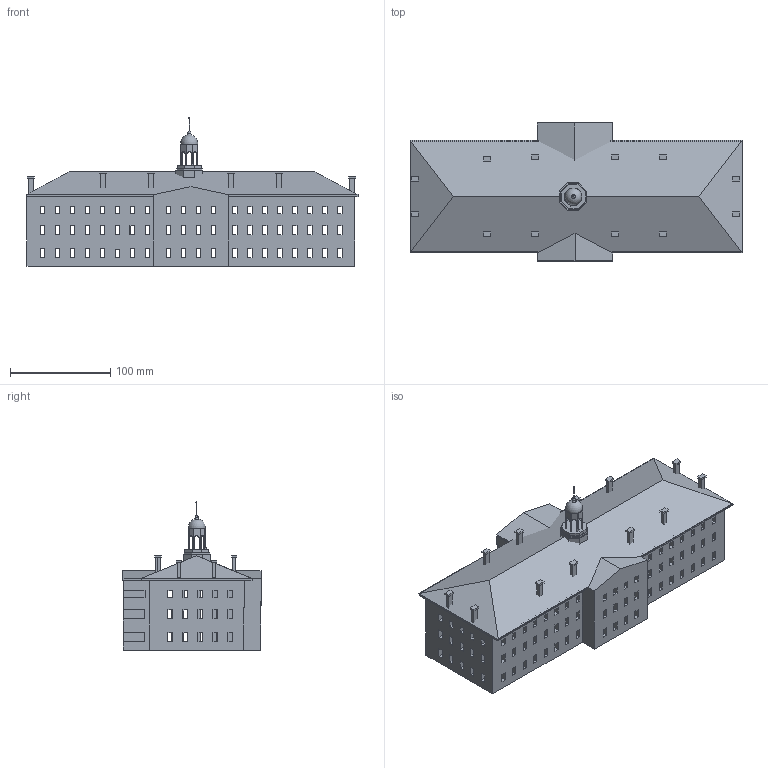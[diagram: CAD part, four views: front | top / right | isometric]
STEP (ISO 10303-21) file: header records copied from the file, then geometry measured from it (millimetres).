
FILE_DESCRIPTION(/* description */ ('Open CASCADE Model'),/* implementation_level */ '2;1');
FILE_NAME(/* name */ 'nassau_hall.step',/* time_stamp */ '2026-04-24T15:27:20-04:00',/* author */ (''),/* organization */ (''),/* preprocessor_version */ 'ST-DEVELOPER v20.1',/* originating_system */ 'Autodesk Translation Framework v15.8.0.0',/* authorisation */ '');
FILE_SCHEMA (('AUTOMOTIVE_DESIGN { 1 0 10303 214 3 1 1 }'));
Length unit declared in the file: millimetre
Products named in the file (3): 2026-02-27-20-08-59-526; 2026-02-27-20-08-59-527; 2026-04-23-23-28-18-943
Assembly tree (2 placements, depth 2):
  2026-02-27-20-08-59-526
    2026-02-27-20-08-59-527
    2026-04-23-23-28-18-943
Bounding box: 332 x 138 x 148.36 mm (x, y, z)
Volume: 820093.1 mm3; surface area: 241947.2 mm2
Topology: 18 solids, 18 shells, 934 faces, 2684 edges, 1785 vertices
Faces by surface type: plane 916, cylinder 10, sphere 5, torus 3
Full cylindrical faces by diameter (mm): 0.559 x1
Entity records: 30718 total; most frequent: CARTESIAN_POINT 5492, ORIENTED_EDGE 5364, DIRECTION 4590, EDGE_CURVE 2682, LINE 2638, VECTOR 2638, VERTEX_POINT 1785, EDGE_LOOP 1257
